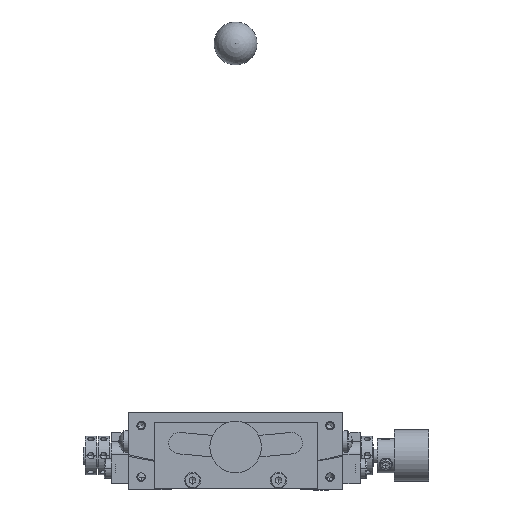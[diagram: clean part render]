
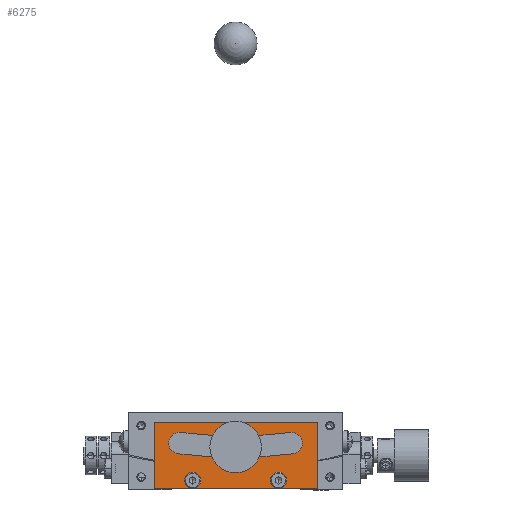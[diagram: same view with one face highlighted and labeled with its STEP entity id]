
A CAD part, front view. The second image highlights one B-rep face of the part: STEP entity #6275.
In plain terms, the highlighted planar face has unit normal (0, -1, 0) as drawn and (-1, 0, 0) by its records, which use the part's own axes.
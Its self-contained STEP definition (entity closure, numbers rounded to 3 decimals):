
#194 = AXIS2_PLACEMENT_3D ( 'NONE', #2746, #2748, #2750 ) ;
#199 = CIRCLE ( 'NONE', #194, 2.5 ) ;
#216 = AXIS2_PLACEMENT_3D ( 'NONE', #2657, #2658, #2660 ) ;
#221 = CIRCLE ( 'NONE', #216, 1.7 ) ;
#238 = AXIS2_PLACEMENT_3D ( 'NONE', #2564, #2565, #2567 ) ;
#241 = CIRCLE ( 'NONE', #238, 1.7 ) ;
#2434 = CARTESIAN_POINT ( 'NONE',  ( -27., 10., 2.25 ) ) ;
#2435 = DIRECTION ( 'NONE',  ( 1., 0., 0. ) ) ;
#2436 = DIRECTION ( 'NONE',  ( 0., -1., 0. ) ) ;
#2437 = CARTESIAN_POINT ( 'NONE',  ( -27., 0., 104. ) ) ;
#2438 = DIRECTION ( 'NONE',  ( 1., 0., 0. ) ) ;
#2439 = DIRECTION ( 'NONE',  ( 0., 1., 0. ) ) ;
#2440 = CARTESIAN_POINT ( 'NONE',  ( -27., 13.082, 10.915 ) ) ;
#2441 = DIRECTION ( 'NONE',  ( 1., 0., 0. ) ) ;
#2442 = DIRECTION ( 'NONE',  ( 0., 1., 0. ) ) ;
#2443 = LINE ( 'NONE', #2444, #57518 ) ;
#2444 = CARTESIAN_POINT ( 'NONE',  ( -27., 19., 15.75 ) ) ;
#2445 = CARTESIAN_POINT ( 'NONE',  ( -27., 0., 104. ) ) ;
#2446 = DIRECTION ( 'NONE',  ( -1., 0., 0. ) ) ;
#2447 = DIRECTION ( 'NONE',  ( 0., -1., 0. ) ) ;
#2448 = LINE ( 'NONE', #2457, #57516 ) ;
#2449 = LINE ( 'NONE', #2455, #57514 ) ;
#2450 = CARTESIAN_POINT ( 'NONE',  ( -27., -13.082, 10.915 ) ) ;
#2451 = DIRECTION ( 'NONE',  ( 1., 0., 0. ) ) ;
#2452 = DIRECTION ( 'NONE',  ( 0., 1., 0. ) ) ;
#2453 = LINE ( 'NONE', #2460, #57515 ) ;
#2454 = DIRECTION ( 'NONE',  ( 0., -1., 0. ) ) ;
#2455 = CARTESIAN_POINT ( 'NONE',  ( -27., 19., 0.25 ) ) ;
#2456 = DIRECTION ( 'NONE',  ( 0., 0., 1. ) ) ;
#2457 = CARTESIAN_POINT ( 'NONE',  ( -27., -19., 0.25 ) ) ;
#2459 = DIRECTION ( 'NONE',  ( 0., 1., 0. ) ) ;
#2460 = CARTESIAN_POINT ( 'NONE',  ( -27., -19., 15.75 ) ) ;
#2462 = DIRECTION ( 'NONE',  ( 0., 0., -1. ) ) ;
#2464 = CARTESIAN_POINT ( 'NONE',  ( -27., -10., 2.25 ) ) ;
#2465 = DIRECTION ( 'NONE',  ( 1., 0., 0. ) ) ;
#2466 = DIRECTION ( 'NONE',  ( 0., -1., 0. ) ) ;
#2564 = CARTESIAN_POINT ( 'NONE',  ( -27., -10., 2.25 ) ) ;
#2565 = DIRECTION ( 'NONE',  ( 1., 0., 0. ) ) ;
#2567 = DIRECTION ( 'NONE',  ( 0., -1., 0. ) ) ;
#2657 = CARTESIAN_POINT ( 'NONE',  ( -27., 10., 2.25 ) ) ;
#2658 = DIRECTION ( 'NONE',  ( 1., 0., 0. ) ) ;
#2660 = DIRECTION ( 'NONE',  ( 0., -1., 0. ) ) ;
#2746 = CARTESIAN_POINT ( 'NONE',  ( -27., 13.082, 10.915 ) ) ;
#2748 = DIRECTION ( 'NONE',  ( 1., 0., 0. ) ) ;
#2750 = DIRECTION ( 'NONE',  ( 0., 1., 0. ) ) ;
#4396 = EDGE_CURVE ( 'NONE', #19884, #19890, #241, .T. ) ;
#4424 = EDGE_CURVE ( 'NONE', #19874, #19869, #221, .T. ) ;
#4454 = EDGE_CURVE ( 'NONE', #19861, #19856, #199, .T. ) ;
#5777 = EDGE_CURVE ( 'NONE', #19869, #19874, #57527, .T. ) ;
#5779 = EDGE_CURVE ( 'NONE', #19195, #19198, #56989, .T. ) ;
#5780 = EDGE_CURVE ( 'NONE', #19198, #19861, #57522, .T. ) ;
#5782 = EDGE_CURVE ( 'NONE', #19856, #19200, #57523, .T. ) ;
#5784 = EDGE_CURVE ( 'NONE', #19200, #19195, #57520, .T. ) ;
#5787 = EDGE_CURVE ( 'NONE', #19189, #19187, #2443, .T. ) ;
#5789 = EDGE_CURVE ( 'NONE', #19191, #19189, #2449, .T. ) ;
#5790 = EDGE_CURVE ( 'NONE', #19185, #19191, #2448, .T. ) ;
#5793 = EDGE_CURVE ( 'NONE', #19187, #19185, #2453, .T. ) ;
#5794 = EDGE_CURVE ( 'NONE', #19890, #19884, #57513, .T. ) ;
#6275 = ADVANCED_FACE ( 'NONE', ( #47153, #47155, #47157, #47158 ), #47159, .F. ) ;
#15393 = ORIENTED_EDGE ( 'NONE', *, *, #5777, .T. ) ;
#15394 = ORIENTED_EDGE ( 'NONE', *, *, #4424, .T. ) ;
#15395 = ORIENTED_EDGE ( 'NONE', *, *, #5779, .T. ) ;
#15396 = ORIENTED_EDGE ( 'NONE', *, *, #5780, .T. ) ;
#15397 = ORIENTED_EDGE ( 'NONE', *, *, #4454, .T. ) ;
#15398 = ORIENTED_EDGE ( 'NONE', *, *, #5782, .T. ) ;
#15399 = ORIENTED_EDGE ( 'NONE', *, *, #5784, .T. ) ;
#15400 = ORIENTED_EDGE ( 'NONE', *, *, #5787, .F. ) ;
#15401 = ORIENTED_EDGE ( 'NONE', *, *, #5789, .F. ) ;
#15402 = ORIENTED_EDGE ( 'NONE', *, *, #5790, .F. ) ;
#15403 = ORIENTED_EDGE ( 'NONE', *, *, #5793, .F. ) ;
#15404 = ORIENTED_EDGE ( 'NONE', *, *, #5794, .T. ) ;
#15405 = ORIENTED_EDGE ( 'NONE', *, *, #4396, .T. ) ;
#19185 = VERTEX_POINT ( 'NONE', #53551 ) ;
#19187 = VERTEX_POINT ( 'NONE', #53552 ) ;
#19189 = VERTEX_POINT ( 'NONE', #53553 ) ;
#19191 = VERTEX_POINT ( 'NONE', #53554 ) ;
#19195 = VERTEX_POINT ( 'NONE', #53556 ) ;
#19198 = VERTEX_POINT ( 'NONE', #53558 ) ;
#19200 = VERTEX_POINT ( 'NONE', #53559 ) ;
#19856 = VERTEX_POINT ( 'NONE', #54124 ) ;
#19861 = VERTEX_POINT ( 'NONE', #54129 ) ;
#19869 = VERTEX_POINT ( 'NONE', #54137 ) ;
#19874 = VERTEX_POINT ( 'NONE', #54144 ) ;
#19884 = VERTEX_POINT ( 'NONE', #54155 ) ;
#19890 = VERTEX_POINT ( 'NONE', #54161 ) ;
#32475 = AXIS2_PLACEMENT_3D ( 'NONE', #47154, #47149, #47160 ) ;
#35450 = EDGE_LOOP ( 'NONE', ( #15404, #15405 ) ) ;
#35451 = EDGE_LOOP ( 'NONE', ( #15393, #15394 ) ) ;
#35452 = EDGE_LOOP ( 'NONE', ( #15395, #15396, #15397, #15398, #15399 ) ) ;
#35454 = EDGE_LOOP ( 'NONE', ( #15400, #15401, #15402, #15403 ) ) ;
#47149 = DIRECTION ( 'NONE',  ( 1., 0., 0. ) ) ;
#47153 = FACE_BOUND ( 'NONE', #35451, .T. ) ;
#47154 = CARTESIAN_POINT ( 'NONE',  ( -27., 0., 0.25 ) ) ;
#47155 = FACE_BOUND ( 'NONE', #35452, .T. ) ;
#47157 = FACE_OUTER_BOUND ( 'NONE', #35454, .T. ) ;
#47158 = FACE_BOUND ( 'NONE', #35450, .T. ) ;
#47159 = PLANE ( 'NONE',  #32475 ) ;
#47160 = DIRECTION ( 'NONE',  ( 0., 1., 0. ) ) ;
#53551 = CARTESIAN_POINT ( 'NONE',  ( -27., -19., 0.25 ) ) ;
#53552 = CARTESIAN_POINT ( 'NONE',  ( -27., -19., 15.75 ) ) ;
#53553 = CARTESIAN_POINT ( 'NONE',  ( -27., 19., 15.75 ) ) ;
#53554 = CARTESIAN_POINT ( 'NONE',  ( -27., 19., 0.25 ) ) ;
#53556 = CARTESIAN_POINT ( 'NONE',  ( -27., -13.43, 8.439 ) ) ;
#53558 = CARTESIAN_POINT ( 'NONE',  ( -27., 13.43, 8.439 ) ) ;
#53559 = CARTESIAN_POINT ( 'NONE',  ( -27., -12.734, 13.39 ) ) ;
#54124 = CARTESIAN_POINT ( 'NONE',  ( -27., 12.734, 13.39 ) ) ;
#54129 = CARTESIAN_POINT ( 'NONE',  ( -27., 15.582, 10.915 ) ) ;
#54137 = CARTESIAN_POINT ( 'NONE',  ( -27., 11.7, 2.25 ) ) ;
#54144 = CARTESIAN_POINT ( 'NONE',  ( -27., 8.3, 2.25 ) ) ;
#54155 = CARTESIAN_POINT ( 'NONE',  ( -27., -11.7, 2.25 ) ) ;
#54161 = CARTESIAN_POINT ( 'NONE',  ( -27., -8.3, 2.25 ) ) ;
#56989 = CIRCLE ( 'NONE', #57524, 96.5 ) ;
#57510 = AXIS2_PLACEMENT_3D ( 'NONE', #2464, #2465, #2466 ) ;
#57513 = CIRCLE ( 'NONE', #57510, 1.7 ) ;
#57514 = VECTOR ( 'NONE', #2456, 1000. ) ;
#57515 = VECTOR ( 'NONE', #2462, 1000. ) ;
#57516 = VECTOR ( 'NONE', #2459, 1000. ) ;
#57517 = AXIS2_PLACEMENT_3D ( 'NONE', #2450, #2451, #2452 ) ;
#57518 = VECTOR ( 'NONE', #2454, 1000. ) ;
#57519 = AXIS2_PLACEMENT_3D ( 'NONE', #2445, #2446, #2447 ) ;
#57520 = CIRCLE ( 'NONE', #57517, 2.5 ) ;
#57521 = AXIS2_PLACEMENT_3D ( 'NONE', #2440, #2441, #2442 ) ;
#57522 = CIRCLE ( 'NONE', #57521, 2.5 ) ;
#57523 = CIRCLE ( 'NONE', #57519, 91.5 ) ;
#57524 = AXIS2_PLACEMENT_3D ( 'NONE', #2437, #2438, #2439 ) ;
#57526 = AXIS2_PLACEMENT_3D ( 'NONE', #2434, #2435, #2436 ) ;
#57527 = CIRCLE ( 'NONE', #57526, 1.7 ) ;
